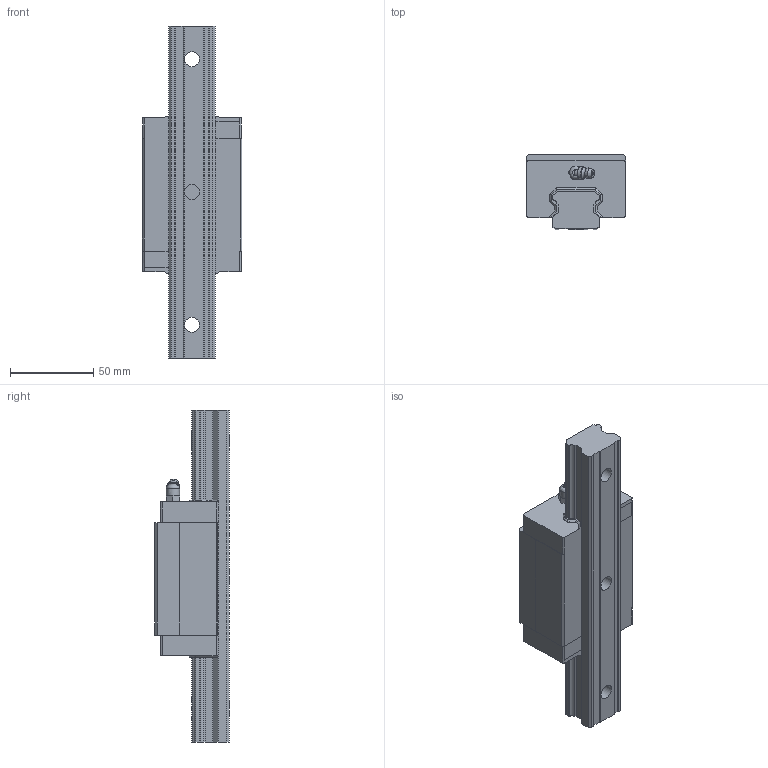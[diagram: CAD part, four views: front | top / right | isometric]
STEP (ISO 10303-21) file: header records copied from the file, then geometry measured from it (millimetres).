
FILE_DESCRIPTION((''),'2;1');
FILE_NAME('D:\製品 (図面)\カタログ用3D\変換ファイル\OZAK_3D-CAD(STEP形式)\Part2.-Linear Guides_ﾘﾆｱｶﾞｲﾄﾞ\07_Eco Guides_ｴｺｶﾞｲﾄﾞ\EGH\EGH30.stp','2010-12-22T11:12:29',('Tsuchiya'),(''),'Autodesk Inventor 10','Autodesk Inventor 10','');
FILE_SCHEMA(('AUTOMOTIVE_DESIGN { 1 0 10303 214 1 1 1 1 }'));
Length unit declared in the file: millimetre
Products named in the file (3): EGH30; EGH301; EGH302
Assembly tree (2 placements, depth 2):
  EGH30
    EGH301
    EGH302
Bounding box: 60 x 45 x 200 mm (x, y, z)
Volume: 273508.5 mm3; surface area: 51123.1 mm2
Topology: 2 solids, 3 shells, 211 faces, 555 edges, 361 vertices
Faces by surface type: plane 128, cylinder 55, cone 24, bspline 2, torus 1, sphere 1
Full cylindrical faces by diameter (mm): 6 x2, 7 x4, 7.75 x1, 8 x5, 9 x3, 14 x3
Entity records: 6475 total; most frequent: CARTESIAN_POINT 1251, DIRECTION 1090, ORIENTED_EDGE 1028, EDGE_CURVE 514, AXIS2_PLACEMENT_3D 371, VERTEX_POINT 351, VECTOR 348, LINE 348
